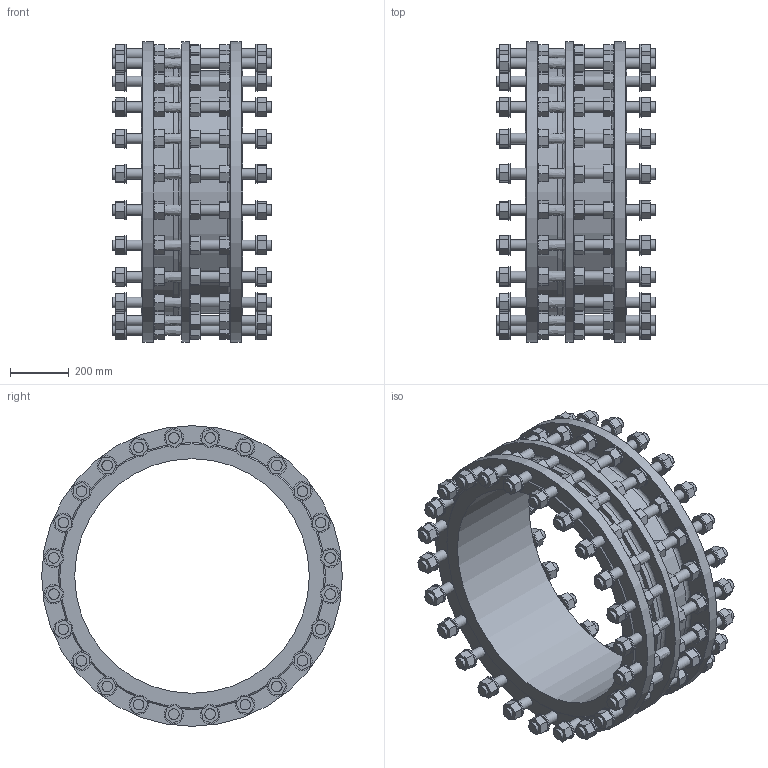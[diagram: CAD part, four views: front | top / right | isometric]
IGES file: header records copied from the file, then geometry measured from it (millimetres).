
Start section: SolidWorks IGES file using analytic representation for surfaces
Global section: file name: \\avksan2\techshare\PBM outline export from Enovia\O_265_910_DN800_1XXXXX00_L=345_REV01.igs; native system: SolidWorks 2022; preprocessor: SolidWorks 2022; author: pbm; date: 241011.125242; units: millimetre
Bounding box: 545 x 1025 x 1025 mm (x, y, z)
Surface area: 5172062.5 mm2 (no closed solid volume)
Topology: 0 solids, 0 shells, 1381 faces, 6176 edges, 5901 vertices
Faces by surface type: bspline 1104, revolution 277
